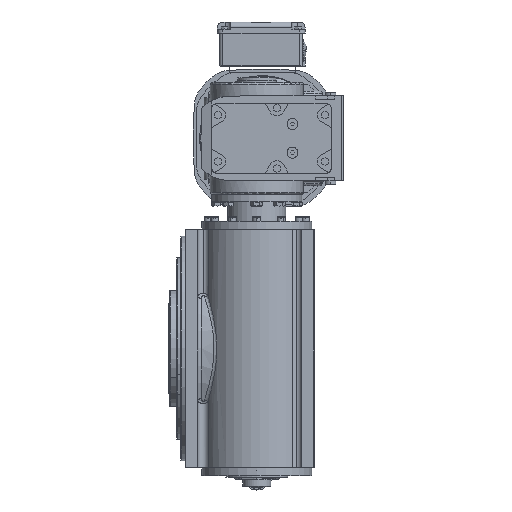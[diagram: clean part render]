
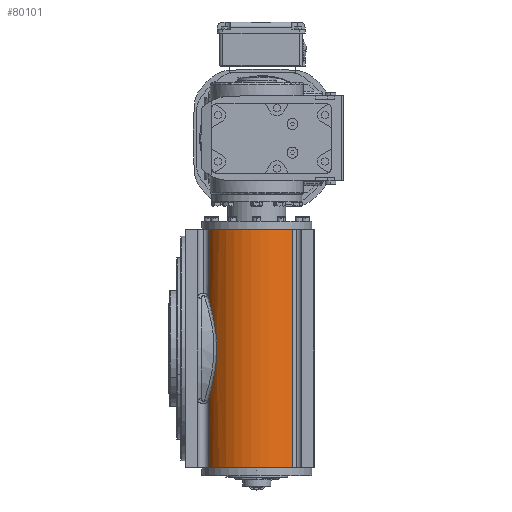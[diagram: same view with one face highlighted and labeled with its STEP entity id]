
A CAD part, left-side view. The second image highlights one B-rep face of the part: STEP entity #80101.
In plain terms, the highlighted cylindrical face has radius 71 mm (diameter 142 mm), a partial arc.
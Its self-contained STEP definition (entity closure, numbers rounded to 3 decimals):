
#749 = AXIS2_PLACEMENT_3D ( 'NONE', #62947, #23944, #78297 ) ;
#6445 = CARTESIAN_POINT ( 'NONE',  ( -130.725, 135.429, 63.555 ) ) ;
#6933 = CARTESIAN_POINT ( 'NONE',  ( -138.57, 130.069, 41.275 ) ) ;
#7426 = CARTESIAN_POINT ( 'NONE',  ( -141.192, 127.924, -30.015 ) ) ;
#8580 = LINE ( 'NONE', #38827, #12698 ) ;
#10352 = CARTESIAN_POINT ( 'NONE',  ( -148.721, 27.577, -154. ) ) ;
#12698 = VECTOR ( 'NONE', #74963, 1000. ) ;
#13944 = CARTESIAN_POINT ( 'NONE',  ( -143.2, 126.132, 16.387 ) ) ;
#14441 = CARTESIAN_POINT ( 'NONE',  ( -142.826, 126.476, -19.641 ) ) ;
#14905 = CARTESIAN_POINT ( 'NONE',  ( -142.631, 126.653, -21.138 ) ) ;
#16258 = EDGE_CURVE ( 'NONE', #43104, #36703, #26567, .T. ) ;
#20039 = DIRECTION ( 'NONE',  ( 0., 0., 1. ) ) ;
#20803 = EDGE_LOOP ( 'NONE', ( #85830, #21666, #46776, #31873, #59923, #60558 ) ) ;
#20952 = VERTEX_POINT ( 'NONE', #49126 ) ;
#21394 = CARTESIAN_POINT ( 'NONE',  ( -128.109, 136.808, 68.859 ) ) ;
#21428 = LINE ( 'NONE', #51574, #45980 ) ;
#21666 = ORIENTED_EDGE ( 'NONE', *, *, #64058, .T. ) ;
#21860 = CARTESIAN_POINT ( 'NONE',  ( -143.713, 125.653, 10.36 ) ) ;
#22379 = CARTESIAN_POINT ( 'NONE',  ( -143.692, 125.681, -12.164 ) ) ;
#23944 = DIRECTION ( 'NONE',  ( 0., 0., 1. ) ) ;
#25319 = CARTESIAN_POINT ( 'NONE',  ( -128.109, 136.808, 154. ) ) ;
#26567 = LINE ( 'NONE', #71051, #97805 ) ;
#28857 = CARTESIAN_POINT ( 'NONE',  ( -136.889, 131.329, 46.942 ) ) ;
#29242 = EDGE_CURVE ( 'NONE', #56400, #43104, #87493, .T. ) ;
#29365 = CARTESIAN_POINT ( 'NONE',  ( -141.962, 127.251, -25.6 ) ) ;
#31816 = CARTESIAN_POINT ( 'NONE',  ( -148.721, 27.577, 154. ) ) ;
#31873 = ORIENTED_EDGE ( 'NONE', *, *, #29242, .T. ) ;
#32186 = AXIS2_PLACEMENT_3D ( 'NONE', #63406, #79225, #33259 ) ;
#33259 = DIRECTION ( 'NONE',  ( 1., 0., 0. ) ) ;
#36703 = VERTEX_POINT ( 'NONE', #31816 ) ;
#36736 = CARTESIAN_POINT ( 'NONE',  ( -143.607, 125.753, 11.865 ) ) ;
#37680 = CARTESIAN_POINT ( 'NONE',  ( -136.93, 131.346, -47.157 ) ) ;
#38827 = CARTESIAN_POINT ( 'NONE',  ( -128.109, 136.808, 500000. ) ) ;
#39550 = B_SPLINE_CURVE_WITH_KNOTS ( 'NONE', 3,
 ( #21394, #6445, #44121, #51056, #51546, #28857, #60005, #6933, #96678, #43626, #59517, #13944, #81776, #36736, #21860, #74304, #97152, #52040, #22379, #14441, #14905, #90206, #29365, #7426, #82269, #73818, #37680, #82749, #44626, #52525 ),
 .UNSPECIFIED., .F., .F.,
 ( 4, 2, 2, 2, 2, 2, 2, 2, 2, 2, 2, 2, 2, 2, 4 ),
 ( 0., 0.018, 0.023, 0.027, 0.036, 0.055, 0.059, 0.064, 0.073, 0.091, 0.095, 0.1, 0.109, 0.127, 0.145 ),
 .UNSPECIFIED. ) ;
#41837 = EDGE_CURVE ( 'NONE', #95167, #78301, #21428, .T. ) ;
#43104 = VERTEX_POINT ( 'NONE', #10352 ) ;
#43626 = CARTESIAN_POINT ( 'NONE',  ( -141.327, 127.831, 29.758 ) ) ;
#44121 = CARTESIAN_POINT ( 'NONE',  ( -133.018, 134.012, 58.125 ) ) ;
#44626 = CARTESIAN_POINT ( 'NONE',  ( -130.722, 135.43, -63.561 ) ) ;
#45200 = CARTESIAN_POINT ( 'NONE',  ( -128.109, 136.808, -154. ) ) ;
#45980 = VECTOR ( 'NONE', #81801, 1000. ) ;
#46776 = ORIENTED_EDGE ( 'NONE', *, *, #76316, .T. ) ;
#49126 = CARTESIAN_POINT ( 'NONE',  ( -128.109, 136.808, -68.859 ) ) ;
#49795 = CARTESIAN_POINT ( 'NONE',  ( -128.109, 136.808, 68.859 ) ) ;
#51056 = CARTESIAN_POINT ( 'NONE',  ( -135.5, 132.319, 51.157 ) ) ;
#51546 = CARTESIAN_POINT ( 'NONE',  ( -135.977, 131.984, 49.755 ) ) ;
#51574 = CARTESIAN_POINT ( 'NONE',  ( -128.109, 136.808, -500000. ) ) ;
#52040 = CARTESIAN_POINT ( 'NONE',  ( -144.04, 125.343, -6.17 ) ) ;
#52525 = CARTESIAN_POINT ( 'NONE',  ( -128.109, 136.808, -68.859 ) ) ;
#52703 = DIRECTION ( 'NONE',  ( 0., 0., 1. ) ) ;
#56400 = VERTEX_POINT ( 'NONE', #45200 ) ;
#59517 = CARTESIAN_POINT ( 'NONE',  ( -142.345, 126.918, 23.884 ) ) ;
#59923 = ORIENTED_EDGE ( 'NONE', *, *, #16258, .T. ) ;
#60005 = CARTESIAN_POINT ( 'NONE',  ( -137.325, 131.008, 45.529 ) ) ;
#60532 = CYLINDRICAL_SURFACE ( 'NONE', #749, 71. ) ;
#60558 = ORIENTED_EDGE ( 'NONE', *, *, #86782, .F. ) ;
#62947 = CARTESIAN_POINT ( 'NONE',  ( -95., 74., -154. ) ) ;
#63406 = CARTESIAN_POINT ( 'NONE',  ( -95., 74., -154. ) ) ;
#64058 = EDGE_CURVE ( 'NONE', #95167, #20952, #39550, .T. ) ;
#71051 = CARTESIAN_POINT ( 'NONE',  ( -148.721, 27.577, -154. ) ) ;
#73818 = CARTESIAN_POINT ( 'NONE',  ( -138.584, 130.076, -41.542 ) ) ;
#74304 = CARTESIAN_POINT ( 'NONE',  ( -143.967, 125.413, 5.846 ) ) ;
#74963 = DIRECTION ( 'NONE',  ( 0., 0., -1. ) ) ;
#76316 = EDGE_CURVE ( 'NONE', #20952, #56400, #8580, .T. ) ;
#78297 = DIRECTION ( 'NONE',  ( 1., 0., 0. ) ) ;
#78301 = VERTEX_POINT ( 'NONE', #25319 ) ;
#79225 = DIRECTION ( 'NONE',  ( 0., 0., 1. ) ) ;
#80101 = ADVANCED_FACE ( 'NONE', ( #82813 ), #60532, .T. ) ;
#81776 = CARTESIAN_POINT ( 'NONE',  ( -143.351, 125.993, 14.878 ) ) ;
#81801 = DIRECTION ( 'NONE',  ( 0., 0., 1. ) ) ;
#82269 = CARTESIAN_POINT ( 'NONE',  ( -140.598, 128.429, -32.922 ) ) ;
#82434 = DIRECTION ( 'NONE',  ( 1., 0., 0. ) ) ;
#82749 = CARTESIAN_POINT ( 'NONE',  ( -132.999, 134.023, -58.167 ) ) ;
#82813 = FACE_OUTER_BOUND ( 'NONE', #20803, .T. ) ;
#85830 = ORIENTED_EDGE ( 'NONE', *, *, #41837, .F. ) ;
#86782 = EDGE_CURVE ( 'NONE', #78301, #36703, #97564, .T. ) ;
#87493 = CIRCLE ( 'NONE', #32186, 71. ) ;
#90206 = CARTESIAN_POINT ( 'NONE',  ( -142.199, 127.041, -24.119 ) ) ;
#90879 = CARTESIAN_POINT ( 'NONE',  ( -95., 74., 154. ) ) ;
#94374 = AXIS2_PLACEMENT_3D ( 'NONE', #90879, #52703, #82434 ) ;
#95167 = VERTEX_POINT ( 'NONE', #49795 ) ;
#96678 = CARTESIAN_POINT ( 'NONE',  ( -139.32, 129.475, 38.415 ) ) ;
#97152 = CARTESIAN_POINT ( 'NONE',  ( -144.049, 125.334, 2.839 ) ) ;
#97564 = CIRCLE ( 'NONE', #94374, 71. ) ;
#97805 = VECTOR ( 'NONE', #20039, 1000. ) ;
